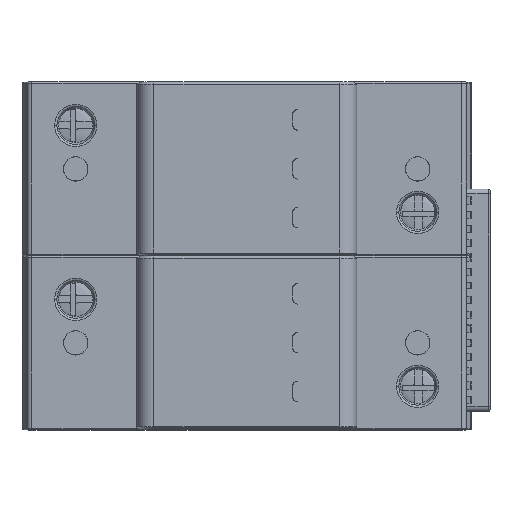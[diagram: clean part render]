
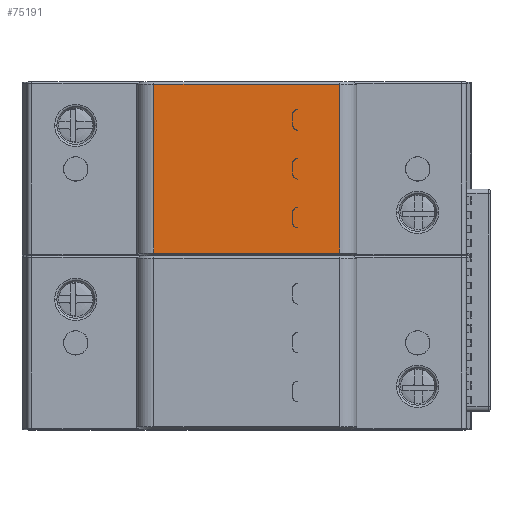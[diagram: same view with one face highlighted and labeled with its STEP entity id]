
A CAD part, top view. The second image highlights one B-rep face of the part: STEP entity #75191.
In plain terms, the highlighted planar face has unit normal (0, 0, 1).
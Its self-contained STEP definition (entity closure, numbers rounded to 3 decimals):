
#8625=DIRECTION('',(0.,1.,0.));
#8626=VECTOR('',#8625,34.5);
#8627=CARTESIAN_POINT('',(26.,36.15,31.2));
#8628=LINE('',#8627,#8626);
#8633=CARTESIAN_POINT('',(55.45,42.3,31.2));
#8634=DIRECTION('',(0.,0.,1.));
#8635=DIRECTION('',(-1.,0.,0.));
#8636=AXIS2_PLACEMENT_3D('',#8633,#8634,#8635);
#8638=DIRECTION('',(0.,-1.,0.));
#8639=VECTOR('',#8638,2.2);
#8640=CARTESIAN_POINT('',(54.45,44.5,31.2));
#8641=LINE('',#8640,#8639);
#8642=CARTESIAN_POINT('',(55.45,44.5,31.2));
#8643=DIRECTION('',(0.,0.,1.));
#8644=DIRECTION('',(0.,1.,0.));
#8645=AXIS2_PLACEMENT_3D('',#8642,#8643,#8644);
#8647=CARTESIAN_POINT('',(55.4,44.5,31.2));
#8648=DIRECTION('',(0.,0.,-1.));
#8649=DIRECTION('',(-1.,0.,0.));
#8650=AXIS2_PLACEMENT_3D('',#8647,#8648,#8649);
#8652=CARTESIAN_POINT('',(55.4,42.3,31.2));
#8653=DIRECTION('',(0.,0.,-1.));
#8654=DIRECTION('',(0.,-1.,0.));
#8655=AXIS2_PLACEMENT_3D('',#8652,#8653,#8654);
#8657=CARTESIAN_POINT('',(55.45,52.3,31.2));
#8658=DIRECTION('',(0.,0.,1.));
#8659=DIRECTION('',(-1.,0.,0.));
#8660=AXIS2_PLACEMENT_3D('',#8657,#8658,#8659);
#8662=DIRECTION('',(0.,-1.,0.));
#8663=VECTOR('',#8662,2.2);
#8664=CARTESIAN_POINT('',(54.45,54.5,31.2));
#8665=LINE('',#8664,#8663);
#8666=CARTESIAN_POINT('',(55.45,54.5,31.2));
#8667=DIRECTION('',(0.,0.,1.));
#8668=DIRECTION('',(0.,1.,0.));
#8669=AXIS2_PLACEMENT_3D('',#8666,#8667,#8668);
#8671=CARTESIAN_POINT('',(55.4,54.5,31.2));
#8672=DIRECTION('',(0.,0.,-1.));
#8673=DIRECTION('',(-1.,0.,0.));
#8674=AXIS2_PLACEMENT_3D('',#8671,#8672,#8673);
#8676=CARTESIAN_POINT('',(55.4,52.3,31.2));
#8677=DIRECTION('',(0.,0.,-1.));
#8678=DIRECTION('',(0.,-1.,0.));
#8679=AXIS2_PLACEMENT_3D('',#8676,#8677,#8678);
#8681=CARTESIAN_POINT('',(55.45,62.3,31.2));
#8682=DIRECTION('',(0.,0.,1.));
#8683=DIRECTION('',(-1.,0.,0.));
#8684=AXIS2_PLACEMENT_3D('',#8681,#8682,#8683);
#8686=DIRECTION('',(0.,-1.,0.));
#8687=VECTOR('',#8686,2.2);
#8688=CARTESIAN_POINT('',(54.45,64.5,31.2));
#8689=LINE('',#8688,#8687);
#8690=CARTESIAN_POINT('',(55.45,64.5,31.2));
#8691=DIRECTION('',(0.,0.,1.));
#8692=DIRECTION('',(0.,1.,0.));
#8693=AXIS2_PLACEMENT_3D('',#8690,#8691,#8692);
#8695=CARTESIAN_POINT('',(55.4,64.5,31.2));
#8696=DIRECTION('',(0.,0.,-1.));
#8697=DIRECTION('',(-1.,0.,0.));
#8698=AXIS2_PLACEMENT_3D('',#8695,#8696,#8697);
#8700=CARTESIAN_POINT('',(55.4,62.3,31.2));
#8701=DIRECTION('',(0.,0.,-1.));
#8702=DIRECTION('',(0.,-1.,0.));
#8703=AXIS2_PLACEMENT_3D('',#8700,#8701,#8702);
#8709=DIRECTION('',(0.,-1.,0.));
#8710=VECTOR('',#8709,34.5);
#8711=CARTESIAN_POINT('',(64.,70.65,31.2));
#8712=LINE('',#8711,#8710);
#20612=DIRECTION('',(0.,-1.,0.));
#20613=VECTOR('',#20612,2.2);
#20614=CARTESIAN_POINT('',(54.4,44.5,31.2));
#20615=LINE('',#20614,#20613);
#20633=DIRECTION('',(1.,0.,0.));
#20634=VECTOR('',#20633,0.05);
#20635=CARTESIAN_POINT('',(55.4,41.3,31.2));
#20636=LINE('',#20635,#20634);
#20679=DIRECTION('',(-1.,0.,0.));
#20680=VECTOR('',#20679,0.05);
#20681=CARTESIAN_POINT('',(55.45,45.5,31.2));
#20682=LINE('',#20681,#20680);
#20888=DIRECTION('',(0.,-1.,0.));
#20889=VECTOR('',#20888,2.2);
#20890=CARTESIAN_POINT('',(54.4,54.5,31.2));
#20891=LINE('',#20890,#20889);
#20909=DIRECTION('',(1.,0.,0.));
#20910=VECTOR('',#20909,0.05);
#20911=CARTESIAN_POINT('',(55.4,51.3,31.2));
#20912=LINE('',#20911,#20910);
#20955=DIRECTION('',(-1.,0.,0.));
#20956=VECTOR('',#20955,0.05);
#20957=CARTESIAN_POINT('',(55.45,55.5,31.2));
#20958=LINE('',#20957,#20956);
#21164=DIRECTION('',(0.,-1.,0.));
#21165=VECTOR('',#21164,2.2);
#21166=CARTESIAN_POINT('',(54.4,64.5,31.2));
#21167=LINE('',#21166,#21165);
#21185=DIRECTION('',(1.,0.,0.));
#21186=VECTOR('',#21185,0.05);
#21187=CARTESIAN_POINT('',(55.4,61.3,31.2));
#21188=LINE('',#21187,#21186);
#21231=DIRECTION('',(-1.,0.,0.));
#21232=VECTOR('',#21231,0.05);
#21233=CARTESIAN_POINT('',(55.45,65.5,31.2));
#21234=LINE('',#21233,#21232);
#30096=DIRECTION('',(-1.,0.,0.));
#30097=VECTOR('',#30096,38.);
#30098=CARTESIAN_POINT('',(64.,36.15,31.2));
#30099=LINE('',#30098,#30097);
#33440=DIRECTION('',(1.,0.,0.));
#33441=VECTOR('',#33440,38.);
#33442=CARTESIAN_POINT('',(26.,70.65,31.2));
#33443=LINE('',#33442,#33441);
#63405=CARTESIAN_POINT('',(55.4,51.3,31.2));
#63406=CARTESIAN_POINT('',(54.4,52.3,31.2));
#63407=VERTEX_POINT('',#63405);
#63408=VERTEX_POINT('',#63406);
#63409=CARTESIAN_POINT('',(54.4,54.5,31.2));
#63410=VERTEX_POINT('',#63409);
#63411=CARTESIAN_POINT('',(55.4,55.5,31.2));
#63412=VERTEX_POINT('',#63411);
#63413=CARTESIAN_POINT('',(55.4,61.3,31.2));
#63414=CARTESIAN_POINT('',(54.4,62.3,31.2));
#63415=VERTEX_POINT('',#63413);
#63416=VERTEX_POINT('',#63414);
#63417=CARTESIAN_POINT('',(54.4,64.5,31.2));
#63418=VERTEX_POINT('',#63417);
#63419=CARTESIAN_POINT('',(55.4,65.5,31.2));
#63420=VERTEX_POINT('',#63419);
#63421=CARTESIAN_POINT('',(55.4,41.3,31.2));
#63422=CARTESIAN_POINT('',(54.4,42.3,31.2));
#63423=VERTEX_POINT('',#63421);
#63424=VERTEX_POINT('',#63422);
#63425=CARTESIAN_POINT('',(54.4,44.5,31.2));
#63426=VERTEX_POINT('',#63425);
#63427=CARTESIAN_POINT('',(55.4,45.5,31.2));
#63428=VERTEX_POINT('',#63427);
#63429=CARTESIAN_POINT('',(64.,70.65,31.2));
#63430=CARTESIAN_POINT('',(64.,36.15,31.2));
#63431=VERTEX_POINT('',#63429);
#63432=VERTEX_POINT('',#63430);
#63433=CARTESIAN_POINT('',(26.,70.65,31.2));
#63434=VERTEX_POINT('',#63433);
#63435=CARTESIAN_POINT('',(26.,36.15,31.2));
#63436=VERTEX_POINT('',#63435);
#65006=CARTESIAN_POINT('',(54.45,44.5,31.2));
#65007=CARTESIAN_POINT('',(54.45,42.3,31.2));
#65008=VERTEX_POINT('',#65006);
#65009=VERTEX_POINT('',#65007);
#65026=CARTESIAN_POINT('',(55.45,45.5,31.2));
#65027=VERTEX_POINT('',#65026);
#65028=CARTESIAN_POINT('',(55.45,41.3,31.2));
#65029=VERTEX_POINT('',#65028);
#65038=CARTESIAN_POINT('',(54.45,54.5,31.2));
#65039=CARTESIAN_POINT('',(54.45,52.3,31.2));
#65040=VERTEX_POINT('',#65038);
#65041=VERTEX_POINT('',#65039);
#65058=CARTESIAN_POINT('',(55.45,55.5,31.2));
#65059=VERTEX_POINT('',#65058);
#65060=CARTESIAN_POINT('',(55.45,51.3,31.2));
#65061=VERTEX_POINT('',#65060);
#65070=CARTESIAN_POINT('',(54.45,64.5,31.2));
#65071=CARTESIAN_POINT('',(54.45,62.3,31.2));
#65072=VERTEX_POINT('',#65070);
#65073=VERTEX_POINT('',#65071);
#65090=CARTESIAN_POINT('',(55.45,65.5,31.2));
#65091=VERTEX_POINT('',#65090);
#65092=CARTESIAN_POINT('',(55.45,61.3,31.2));
#65093=VERTEX_POINT('',#65092);
#75123=CARTESIAN_POINT('',(45.,53.4,31.2));
#75124=DIRECTION('',(0.,0.,1.));
#75125=DIRECTION('',(1.,0.,0.));
#75126=AXIS2_PLACEMENT_3D('',#75123,#75124,#75125);
#75127=PLANE('',#75126);
#75129=ORIENTED_EDGE('',*,*,#75128,.T.);
#75131=ORIENTED_EDGE('',*,*,#75130,.T.);
#75132=ORIENTED_EDGE('',*,*,#75113,.T.);
#75134=ORIENTED_EDGE('',*,*,#75133,.T.);
#75135=EDGE_LOOP('',(#75129,#75131,#75132,#75134));
#75136=FACE_OUTER_BOUND('',#75135,.F.);
#75138=ORIENTED_EDGE('',*,*,#75137,.T.);
#75140=ORIENTED_EDGE('',*,*,#75139,.F.);
#75142=ORIENTED_EDGE('',*,*,#75141,.F.);
#75144=ORIENTED_EDGE('',*,*,#75143,.F.);
#75146=ORIENTED_EDGE('',*,*,#75145,.T.);
#75148=ORIENTED_EDGE('',*,*,#75147,.F.);
#75150=ORIENTED_EDGE('',*,*,#75149,.T.);
#75152=ORIENTED_EDGE('',*,*,#75151,.F.);
#75153=EDGE_LOOP('',(#75138,#75140,#75142,#75144,#75146,#75148,#75150,#75152));
#75154=FACE_BOUND('',#75153,.F.);
#75156=ORIENTED_EDGE('',*,*,#75155,.T.);
#75158=ORIENTED_EDGE('',*,*,#75157,.F.);
#75160=ORIENTED_EDGE('',*,*,#75159,.F.);
#75162=ORIENTED_EDGE('',*,*,#75161,.F.);
#75164=ORIENTED_EDGE('',*,*,#75163,.T.);
#75166=ORIENTED_EDGE('',*,*,#75165,.F.);
#75168=ORIENTED_EDGE('',*,*,#75167,.T.);
#75170=ORIENTED_EDGE('',*,*,#75169,.F.);
#75171=EDGE_LOOP('',(#75156,#75158,#75160,#75162,#75164,#75166,#75168,#75170));
#75172=FACE_BOUND('',#75171,.F.);
#75174=ORIENTED_EDGE('',*,*,#75173,.T.);
#75176=ORIENTED_EDGE('',*,*,#75175,.F.);
#75178=ORIENTED_EDGE('',*,*,#75177,.F.);
#75180=ORIENTED_EDGE('',*,*,#75179,.F.);
#75182=ORIENTED_EDGE('',*,*,#75181,.T.);
#75184=ORIENTED_EDGE('',*,*,#75183,.F.);
#75186=ORIENTED_EDGE('',*,*,#75185,.T.);
#75188=ORIENTED_EDGE('',*,*,#75187,.F.);
#75189=EDGE_LOOP('',(#75174,#75176,#75178,#75180,#75182,#75184,#75186,#75188));
#75190=FACE_BOUND('',#75189,.F.);
#75191=ADVANCED_FACE('',(#75136,#75154,#75172,#75190),#75127,.T.);
#8637=CIRCLE('',#8636,1.);
#8646=CIRCLE('',#8645,1.);
#8651=CIRCLE('',#8650,1.);
#8656=CIRCLE('',#8655,1.);
#8661=CIRCLE('',#8660,1.);
#8670=CIRCLE('',#8669,1.);
#8675=CIRCLE('',#8674,1.);
#8680=CIRCLE('',#8679,1.);
#8685=CIRCLE('',#8684,1.);
#8694=CIRCLE('',#8693,1.);
#8699=CIRCLE('',#8698,1.);
#8704=CIRCLE('',#8703,1.);
#75113=EDGE_CURVE('',#63436,#63434,#8628,.T.);
#75128=EDGE_CURVE('',#63431,#63432,#8712,.T.);
#75130=EDGE_CURVE('',#63432,#63436,#30099,.T.);
#75133=EDGE_CURVE('',#63434,#63431,#33443,.T.);
#75137=EDGE_CURVE('',#63423,#65029,#20636,.T.);
#75139=EDGE_CURVE('',#65009,#65029,#8637,.T.);
#75141=EDGE_CURVE('',#65008,#65009,#8641,.T.);
#75143=EDGE_CURVE('',#65027,#65008,#8646,.T.);
#75145=EDGE_CURVE('',#65027,#63428,#20682,.T.);
#75147=EDGE_CURVE('',#63426,#63428,#8651,.T.);
#75149=EDGE_CURVE('',#63426,#63424,#20615,.T.);
#75151=EDGE_CURVE('',#63423,#63424,#8656,.T.);
#75155=EDGE_CURVE('',#63407,#65061,#20912,.T.);
#75157=EDGE_CURVE('',#65041,#65061,#8661,.T.);
#75159=EDGE_CURVE('',#65040,#65041,#8665,.T.);
#75161=EDGE_CURVE('',#65059,#65040,#8670,.T.);
#75163=EDGE_CURVE('',#65059,#63412,#20958,.T.);
#75165=EDGE_CURVE('',#63410,#63412,#8675,.T.);
#75167=EDGE_CURVE('',#63410,#63408,#20891,.T.);
#75169=EDGE_CURVE('',#63407,#63408,#8680,.T.);
#75173=EDGE_CURVE('',#63415,#65093,#21188,.T.);
#75175=EDGE_CURVE('',#65073,#65093,#8685,.T.);
#75177=EDGE_CURVE('',#65072,#65073,#8689,.T.);
#75179=EDGE_CURVE('',#65091,#65072,#8694,.T.);
#75181=EDGE_CURVE('',#65091,#63420,#21234,.T.);
#75183=EDGE_CURVE('',#63418,#63420,#8699,.T.);
#75185=EDGE_CURVE('',#63418,#63416,#21167,.T.);
#75187=EDGE_CURVE('',#63415,#63416,#8704,.T.);
